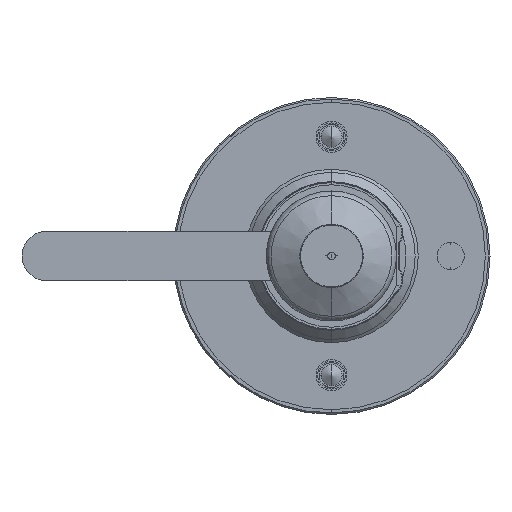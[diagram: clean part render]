
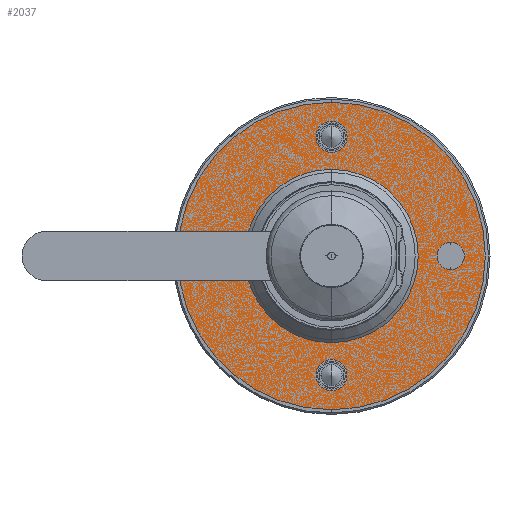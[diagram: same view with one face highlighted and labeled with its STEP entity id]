
A CAD part, front view. The second image highlights one B-rep face of the part: STEP entity #2037.
In plain terms, the highlighted planar face has unit normal (0, -1, 0) as drawn and (0, 0, -1) by its records, which use the part's own axes.
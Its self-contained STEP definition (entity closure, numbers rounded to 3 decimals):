
#665 = AXIS2_PLACEMENT_3D ( 'NONE', #21409, #28447, #7453 ) ;
#937 = DIRECTION ( 'NONE',  ( -1., 0., 0. ) ) ;
#1336 = EDGE_CURVE ( 'NONE', #5517, #7446, #8813, .T. ) ;
#1466 = DIRECTION ( 'NONE',  ( 0., 0., 1. ) ) ;
#1470 = CARTESIAN_POINT ( 'NONE',  ( 38.5, 0., 0. ) ) ;
#1636 = CIRCLE ( 'NONE', #665, 5. ) ;
#1737 = FACE_OUTER_BOUND ( 'NONE', #28306, .T. ) ;
#2037 = ADVANCED_FACE ( 'NONE', ( #1737, #10996, #25355, #20463, #18021, #15904 ), #20619, .T. ) ;
#2202 = VERTEX_POINT ( 'NONE', #10470 ) ;
#2520 = AXIS2_PLACEMENT_3D ( 'NONE', #3043, #14588, #12455 ) ;
#2749 = DIRECTION ( 'NONE',  ( 1., 0., 0. ) ) ;
#2988 = EDGE_CURVE ( 'NONE', #11388, #12227, #5400, .T. ) ;
#3043 = CARTESIAN_POINT ( 'NONE',  ( 0., 38.5, 0. ) ) ;
#3403 = ORIENTED_EDGE ( 'NONE', *, *, #29051, .T. ) ;
#3759 = EDGE_CURVE ( 'NONE', #14255, #25657, #20127, .T. ) ;
#3926 = CARTESIAN_POINT ( 'NONE',  ( -22., 0., 0. ) ) ;
#3993 = AXIS2_PLACEMENT_3D ( 'NONE', #24351, #15186, #17781 ) ;
#4285 = ORIENTED_EDGE ( 'NONE', *, *, #24204, .T. ) ;
#4479 = EDGE_LOOP ( 'NONE', ( #4285, #10073 ) ) ;
#4498 = CIRCLE ( 'NONE', #3993, 49.675 ) ;
#4641 = CARTESIAN_POINT ( 'NONE',  ( 0., -38.5, 0. ) ) ;
#5046 = AXIS2_PLACEMENT_3D ( 'NONE', #25249, #1466, #11498 ) ;
#5400 = CIRCLE ( 'NONE', #9834, 5. ) ;
#5517 = VERTEX_POINT ( 'NONE', #3926 ) ;
#6082 = EDGE_CURVE ( 'NONE', #21913, #2202, #4498, .T. ) ;
#6287 = EDGE_LOOP ( 'NONE', ( #22713, #26450 ) ) ;
#6293 = ORIENTED_EDGE ( 'NONE', *, *, #2988, .T. ) ;
#6400 = DIRECTION ( 'NONE',  ( 0., 0., 1. ) ) ;
#6945 = VERTEX_POINT ( 'NONE', #14674 ) ;
#7067 = EDGE_LOOP ( 'NONE', ( #19859, #3403 ) ) ;
#7446 = VERTEX_POINT ( 'NONE', #22819 ) ;
#7453 = DIRECTION ( 'NONE',  ( -1., 0., 0. ) ) ;
#8319 = AXIS2_PLACEMENT_3D ( 'NONE', #11287, #24889, #17878 ) ;
#8813 = CIRCLE ( 'NONE', #12249, 22. ) ;
#8877 = DIRECTION ( 'NONE',  ( -1., 0., 0. ) ) ;
#9834 = AXIS2_PLACEMENT_3D ( 'NONE', #14530, #24150, #28601 ) ;
#10023 = CARTESIAN_POINT ( 'NONE',  ( 0., 0., 0. ) ) ;
#10073 = ORIENTED_EDGE ( 'NONE', *, *, #1336, .T. ) ;
#10351 = CIRCLE ( 'NONE', #17201, 4.4 ) ;
#10470 = CARTESIAN_POINT ( 'NONE',  ( 49.675, 0., 0. ) ) ;
#10512 = CARTESIAN_POINT ( 'NONE',  ( -49.675, 0., 0. ) ) ;
#10751 = EDGE_CURVE ( 'NONE', #12227, #11388, #23643, .T. ) ;
#10996 = FACE_BOUND ( 'NONE', #6287, .T. ) ;
#11181 = CARTESIAN_POINT ( 'NONE',  ( 0., 38.5, 0. ) ) ;
#11287 = CARTESIAN_POINT ( 'NONE',  ( 22., 0., 0. ) ) ;
#11388 = VERTEX_POINT ( 'NONE', #14744 ) ;
#11498 = DIRECTION ( 'NONE',  ( -1., 0., 0. ) ) ;
#11502 = DIRECTION ( 'NONE',  ( -1., 0., 0. ) ) ;
#11583 = EDGE_CURVE ( 'NONE', #26888, #12020, #25550, .T. ) ;
#12020 = VERTEX_POINT ( 'NONE', #20634 ) ;
#12227 = VERTEX_POINT ( 'NONE', #20439 ) ;
#12249 = AXIS2_PLACEMENT_3D ( 'NONE', #10023, #14457, #2749 ) ;
#12373 = AXIS2_PLACEMENT_3D ( 'NONE', #1470, #6400, #11502 ) ;
#12455 = DIRECTION ( 'NONE',  ( -1., 0., 0. ) ) ;
#12829 = AXIS2_PLACEMENT_3D ( 'NONE', #21972, #29014, #937 ) ;
#13155 = AXIS2_PLACEMENT_3D ( 'NONE', #18906, #13586, #22898 ) ;
#13586 = DIRECTION ( 'NONE',  ( 0., 0., -1. ) ) ;
#13807 = EDGE_CURVE ( 'NONE', #12020, #26888, #1636, .T. ) ;
#13967 = DIRECTION ( 'NONE',  ( 1., 0., 0. ) ) ;
#14255 = VERTEX_POINT ( 'NONE', #22767 ) ;
#14299 = EDGE_CURVE ( 'NONE', #25657, #14255, #25175, .T. ) ;
#14353 = DIRECTION ( 'NONE',  ( 0., 0., 1. ) ) ;
#14457 = DIRECTION ( 'NONE',  ( 0., 0., 1. ) ) ;
#14530 = CARTESIAN_POINT ( 'NONE',  ( -38.5, 0., 0. ) ) ;
#14588 = DIRECTION ( 'NONE',  ( 0., 0., 1. ) ) ;
#14674 = CARTESIAN_POINT ( 'NONE',  ( 4.4, 38.5, 0. ) ) ;
#14744 = CARTESIAN_POINT ( 'NONE',  ( -33.5, 0., 0. ) ) ;
#15186 = DIRECTION ( 'NONE',  ( 0., 0., -1. ) ) ;
#15384 = VERTEX_POINT ( 'NONE', #26895 ) ;
#15390 = ORIENTED_EDGE ( 'NONE', *, *, #18991, .T. ) ;
#15904 = FACE_BOUND ( 'NONE', #4479, .T. ) ;
#15926 = AXIS2_PLACEMENT_3D ( 'NONE', #4641, #14353, #19074 ) ;
#16147 = CIRCLE ( 'NONE', #19072, 22. ) ;
#17201 = AXIS2_PLACEMENT_3D ( 'NONE', #11181, #20514, #8877 ) ;
#17515 = ORIENTED_EDGE ( 'NONE', *, *, #13807, .T. ) ;
#17781 = DIRECTION ( 'NONE',  ( -1., 0., 0. ) ) ;
#17878 = DIRECTION ( 'NONE',  ( -1., 0., 0. ) ) ;
#18021 = FACE_BOUND ( 'NONE', #27279, .T. ) ;
#18537 = DIRECTION ( 'NONE',  ( 0., 0., 1. ) ) ;
#18906 = CARTESIAN_POINT ( 'NONE',  ( 0., 0., 0. ) ) ;
#18991 = EDGE_CURVE ( 'NONE', #2202, #21913, #19009, .T. ) ;
#19009 = CIRCLE ( 'NONE', #13155, 49.675 ) ;
#19072 = AXIS2_PLACEMENT_3D ( 'NONE', #27574, #18537, #13967 ) ;
#19074 = DIRECTION ( 'NONE',  ( -1., 0., 0. ) ) ;
#19859 = ORIENTED_EDGE ( 'NONE', *, *, #26267, .T. ) ;
#20127 = CIRCLE ( 'NONE', #12829, 4.4 ) ;
#20439 = CARTESIAN_POINT ( 'NONE',  ( -43.5, 0., 0. ) ) ;
#20463 = FACE_BOUND ( 'NONE', #24476, .T. ) ;
#20514 = DIRECTION ( 'NONE',  ( 0., 0., 1. ) ) ;
#20619 = PLANE ( 'NONE',  #8319 ) ;
#20634 = CARTESIAN_POINT ( 'NONE',  ( 43.5, 0., 0. ) ) ;
#21409 = CARTESIAN_POINT ( 'NONE',  ( 38.5, 0., 0. ) ) ;
#21913 = VERTEX_POINT ( 'NONE', #10512 ) ;
#21972 = CARTESIAN_POINT ( 'NONE',  ( 0., -38.5, 0. ) ) ;
#22713 = ORIENTED_EDGE ( 'NONE', *, *, #14299, .T. ) ;
#22767 = CARTESIAN_POINT ( 'NONE',  ( 4.4, -38.5, 0. ) ) ;
#22819 = CARTESIAN_POINT ( 'NONE',  ( 22., 0., 0. ) ) ;
#22898 = DIRECTION ( 'NONE',  ( -1., 0., 0. ) ) ;
#23643 = CIRCLE ( 'NONE', #5046, 5. ) ;
#24150 = DIRECTION ( 'NONE',  ( 0., 0., 1. ) ) ;
#24153 = ORIENTED_EDGE ( 'NONE', *, *, #6082, .T. ) ;
#24204 = EDGE_CURVE ( 'NONE', #7446, #5517, #16147, .T. ) ;
#24351 = CARTESIAN_POINT ( 'NONE',  ( 0., 0., 0. ) ) ;
#24441 = ORIENTED_EDGE ( 'NONE', *, *, #11583, .T. ) ;
#24476 = EDGE_LOOP ( 'NONE', ( #24441, #17515 ) ) ;
#24889 = DIRECTION ( 'NONE',  ( 0., 0., -1. ) ) ;
#25175 = CIRCLE ( 'NONE', #15926, 4.4 ) ;
#25249 = CARTESIAN_POINT ( 'NONE',  ( -38.5, 0., 0. ) ) ;
#25355 = FACE_BOUND ( 'NONE', #7067, .T. ) ;
#25547 = CIRCLE ( 'NONE', #2520, 4.4 ) ;
#25550 = CIRCLE ( 'NONE', #12373, 5. ) ;
#25657 = VERTEX_POINT ( 'NONE', #26364 ) ;
#25683 = ORIENTED_EDGE ( 'NONE', *, *, #10751, .T. ) ;
#26267 = EDGE_CURVE ( 'NONE', #15384, #6945, #10351, .T. ) ;
#26364 = CARTESIAN_POINT ( 'NONE',  ( -4.4, -38.5, 0. ) ) ;
#26373 = CARTESIAN_POINT ( 'NONE',  ( 33.5, 0., 0. ) ) ;
#26450 = ORIENTED_EDGE ( 'NONE', *, *, #3759, .T. ) ;
#26888 = VERTEX_POINT ( 'NONE', #26373 ) ;
#26895 = CARTESIAN_POINT ( 'NONE',  ( -4.4, 38.5, 0. ) ) ;
#27279 = EDGE_LOOP ( 'NONE', ( #25683, #6293 ) ) ;
#27574 = CARTESIAN_POINT ( 'NONE',  ( 0., 0., 0. ) ) ;
#28306 = EDGE_LOOP ( 'NONE', ( #15390, #24153 ) ) ;
#28447 = DIRECTION ( 'NONE',  ( 0., 0., 1. ) ) ;
#28601 = DIRECTION ( 'NONE',  ( -1., 0., 0. ) ) ;
#29014 = DIRECTION ( 'NONE',  ( 0., 0., 1. ) ) ;
#29051 = EDGE_CURVE ( 'NONE', #6945, #15384, #25547, .T. ) ;
